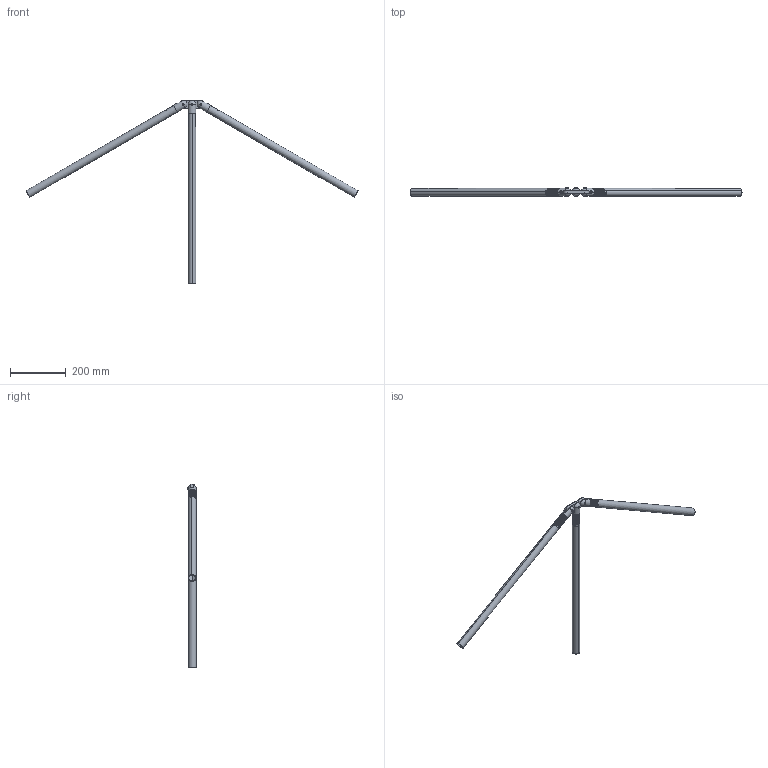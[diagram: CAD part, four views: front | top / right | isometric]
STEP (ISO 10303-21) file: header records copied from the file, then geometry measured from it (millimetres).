
FILE_DESCRIPTION (( 'STEP AP214' ), '1' );
FILE_NAME ('Triple Link Connector to Three Female Clevis Connectors Connection.STEP', '2013-08-19T16:22:39', ( 'ydmin' ), ( 'Microsoft' ), 'SwSTEP 2.0', 'SolidWorks 2013', '' );
FILE_SCHEMA (( 'AUTOMOTIVE_DESIGN' ));
Length unit declared in the file: inch
Products named in the file (5): DRP-002-0534-00; 6.000 Inch Tube; 91255A542_91255A542; DRP-002-0510-00_FEMALE YOKE TUBE INSERT; Triple Link Connector to Three Female Clevis Connectors Connection
Assembly tree (10 placements, depth 2):
  Triple Link Connector to Three Female Clevis Connectors Connection
    DRP-002-0510-00_FEMALE YOKE TUBE INSERT  x3
    91255A542_91255A542  x3
    6.000 Inch Tube  x3
    DRP-002-0534-00
Bounding box: 1186.57 x 30.47 x 654.77 mm (x, y, z)
Volume: 249926.3 mm3; surface area: 356755.1 mm2
Topology: 10 solids, 10 shells, 1301 faces, 3300 edges, 2019 vertices
Faces by surface type: cylinder 595, plane 379, cone 291, torus 24, sphere 12
Entity records: 16069 total; most frequent: CARTESIAN_POINT 5094, DIRECTION 2307, ORIENTED_EDGE 2244, EDGE_CURVE 1122, AXIS2_PLACEMENT_3D 850, VERTEX_POINT 689, VECTOR 607, LINE 607
